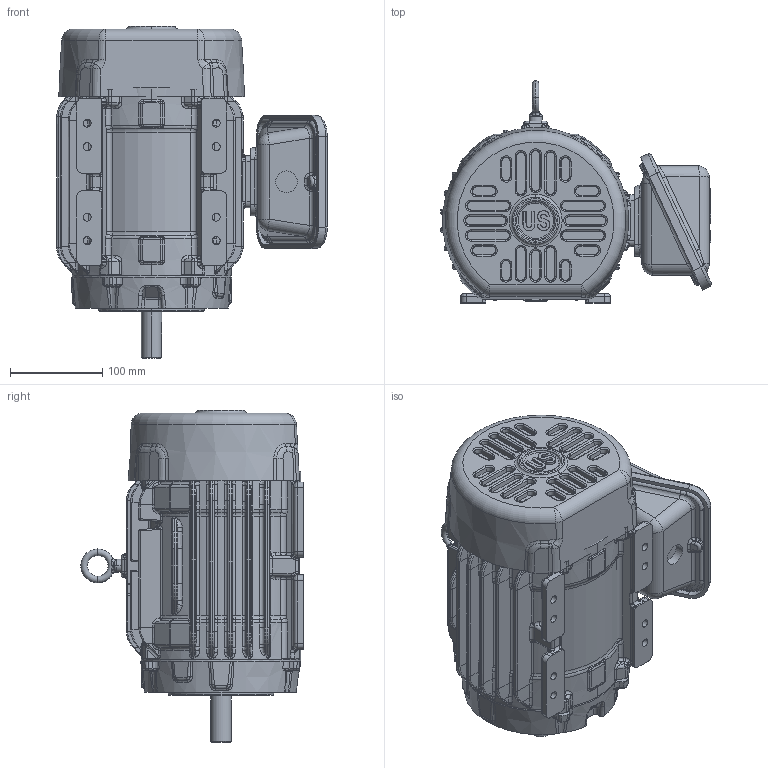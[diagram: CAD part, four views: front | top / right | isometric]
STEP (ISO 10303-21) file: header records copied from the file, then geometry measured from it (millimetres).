
FILE_DESCRIPTION((''),'2;1');
FILE_NAME('140_3D_ASM_ASM','2017-11-03T',('EMD2341'),('Nidec Motor Corporation'),'CREO PARAMETRIC BY PTC INC, 2017170','CREO PARAMETRIC BY PTC INC, 2017170','');
FILE_SCHEMA(('CONFIG_CONTROL_DESIGN'));
Length unit declared in the file: inch
Products named in the file (10): 140_FOOTED_FRAME; 140_FLNG; 140_CAST_FCVR; NEW313; 140_CAST_GSK_OBB; 140_CAST_NEMA; 140_CAST_GSK_OBC; 140_CAST_OBC; 140_CFACE_BRKT; 140_3D_ASM_ASM
Assembly tree (9 placements, depth 2):
  140_3D_ASM_ASM
    140_FOOTED_FRAME
    140_FLNG
    140_CAST_FCVR
    NEW313
    140_CAST_GSK_OBB
    140_CAST_NEMA
    140_CAST_GSK_OBC
    140_CAST_OBC
    140_CFACE_BRKT
Bounding box: 292.59 x 240.54 x 359.16 mm (x, y, z)
Volume: 9093824.2 mm3; surface area: 611023.4 mm2
Topology: 9 solids, 9 shells, 2934 faces, 6868 edges, 3990 vertices
Faces by surface type: bspline 1280, cylinder 597, plane 515, extrusion 204, torus 194, cone 82, sphere 62
Entity records: 135068 total; most frequent: CARTESIAN_POINT 76848, ORIENTED_EDGE 13720, DIRECTION 9643, EDGE_CURVE 6860, VERTEX_POINT 3990, AXIS2_PLACEMENT_3D 3714, EDGE_LOOP 3004, FACE_OUTER_BOUND 2934
